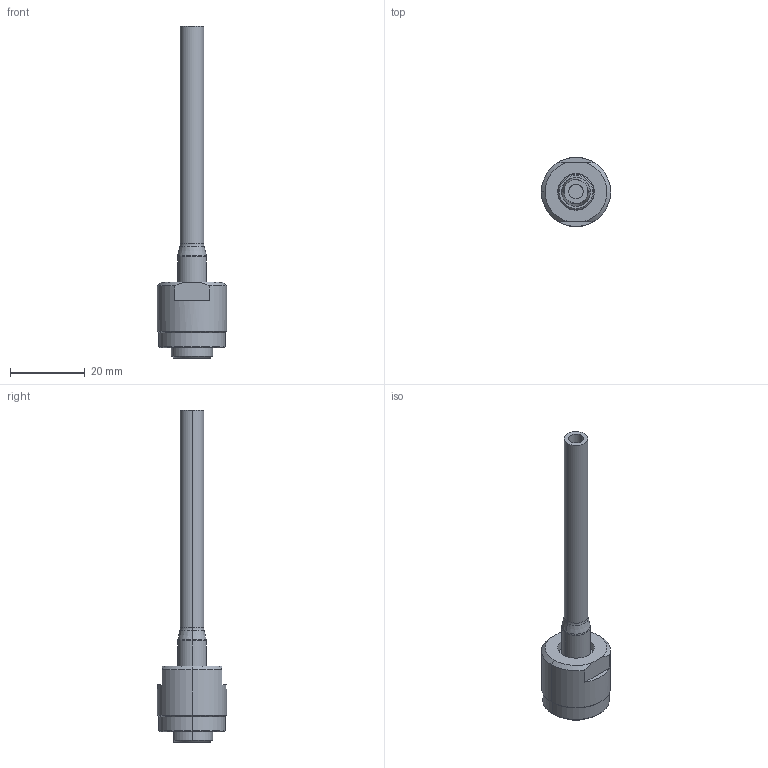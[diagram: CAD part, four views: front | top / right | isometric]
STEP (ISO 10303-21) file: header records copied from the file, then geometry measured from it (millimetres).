
FILE_DESCRIPTION (( 'STEP AP203' ), '1' );
FILE_NAME ('COB-12CC Cable Coax.STEP', '2024-07-24T16:49:49', ( '' ), ( '' ), 'SwSTEP 2.0', 'SolidWorks 2022', '' );
FILE_SCHEMA (( 'CONFIG_CONTROL_DESIGN' ));
Length unit declared in the file: millimetre
Products named in the file (1): COB-12CC Cable Coax
Bounding box: 18.5 x 18.5 x 88.8 mm (x, y, z)
Volume: 5116.1 mm3; surface area: 6024.3 mm2
Topology: 3 solids, 3 shells, 125 faces, 276 edges, 168 vertices
Faces by surface type: cylinder 50, cone 26, plane 24, torus 22, bspline 3
Entity records: 4696 total; most frequent: CARTESIAN_POINT 1865, DIRECTION 624, ORIENTED_EDGE 552, EDGE_CURVE 276, AXIS2_PLACEMENT_3D 270, VERTEX_POINT 168, CIRCLE 147, EDGE_LOOP 140
